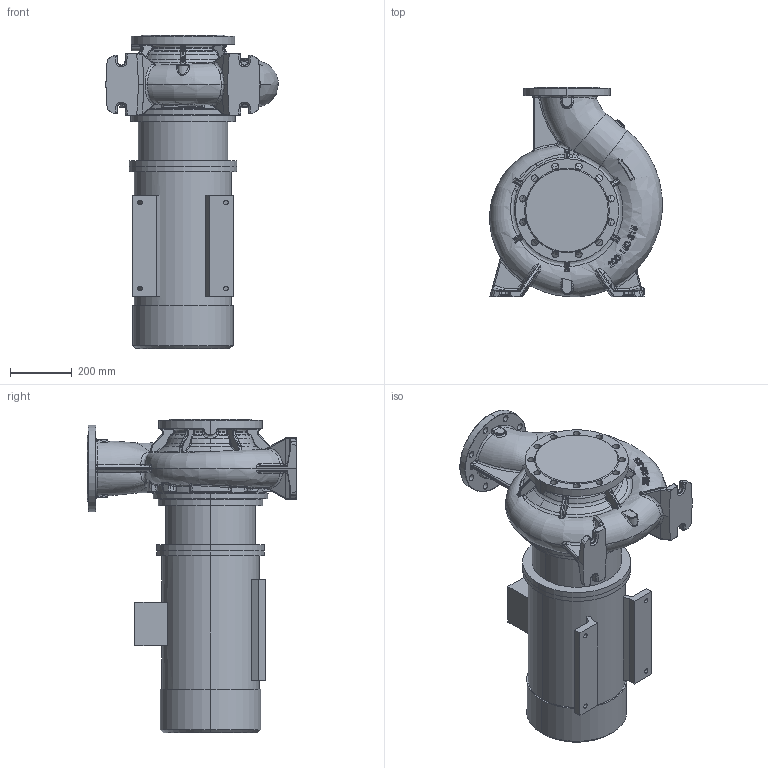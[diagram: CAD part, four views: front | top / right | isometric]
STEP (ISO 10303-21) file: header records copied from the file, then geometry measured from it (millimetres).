
FILE_DESCRIPTION (( 'STEP AP214' ), '1' );
FILE_NAME ('KRM 200-150-315-4-22.STEP', '2026-04-17T12:05:48', ( '' ), ( '' ), 'SwSTEP 2.0', 'SolidWorks 2016', '' );
FILE_SCHEMA (( 'AUTOMOTIVE_DESIGN' ));
Length unit declared in the file: millimetre
Products named in the file (1): KRM 200-150-315-4-22
Bounding box: 559.85 x 680 x 1017.3 mm (x, y, z)
Volume: 108887937.2 mm3; surface area: 2915791.3 mm2
Topology: 16 solids, 16 shells, 1427 faces, 3464 edges, 2032 vertices
Faces by surface type: bspline 605, cylinder 320, plane 258, torus 124, cone 76, sphere 44
Entity records: 99579 total; most frequent: CARTESIAN_POINT 55063, ORIENTED_EDGE 6822, DIRECTION 4885, EDGE_CURVE 3411, VERTEX_POINT 2032, AXIS2_PLACEMENT_3D 2019, EDGE_LOOP 1499, UNCERTAINTY_MEASURE_WITH_UNIT 1445
